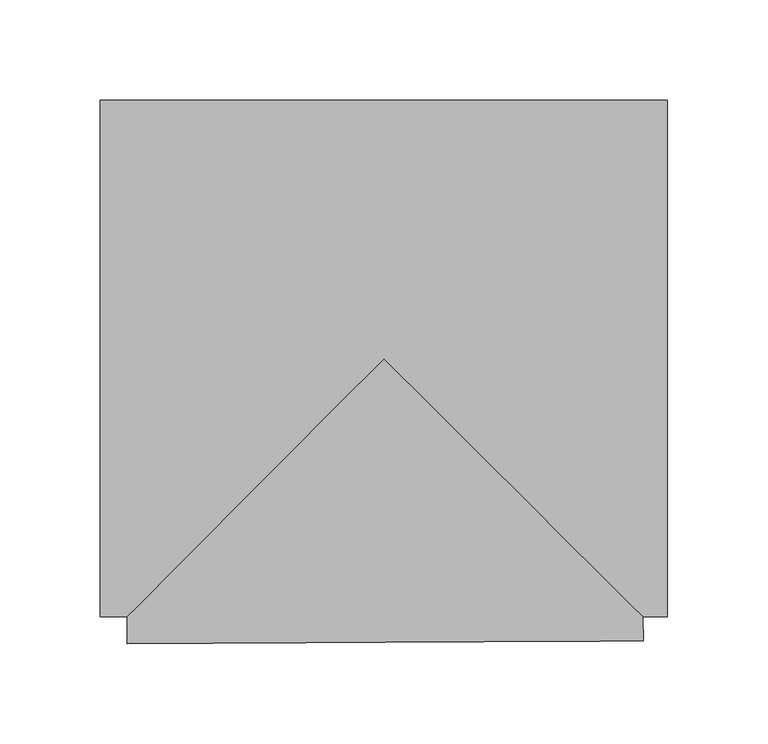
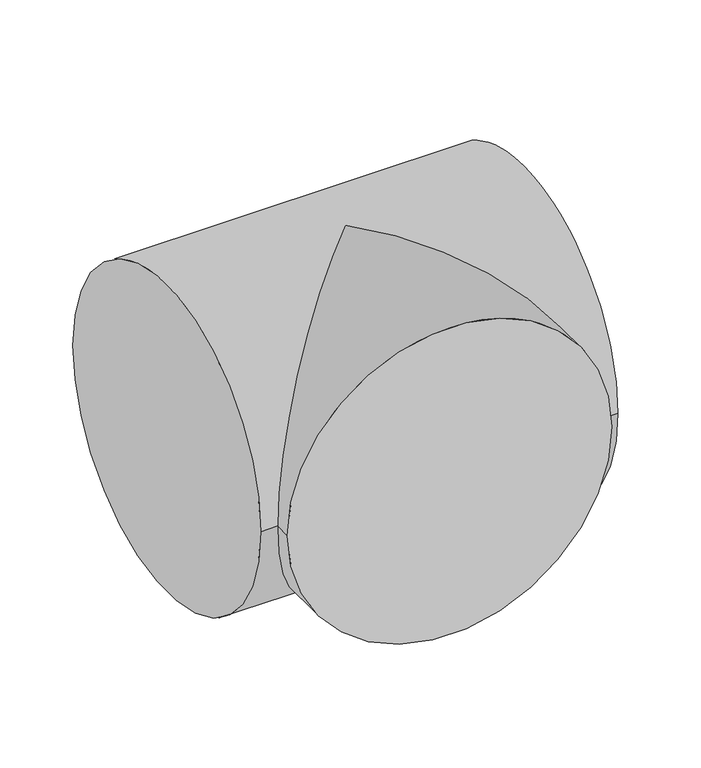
"""IFC4 building model written with IfcOpenShell, lengths in millimetres: pipe fitting geometry, M_Te - Genérica : Estándar."""

from ifc_helpers import new_model, si_unit, frame, origin, place, context, project, spatial, circle_curve, ellipse_curve, source, transform, mapped, element, save
from ifc_brep_helpers import plane_surface, cylinder_surface, advanced_brep


def pipe_fitting_402c58f1(model_context):
    return source(origin(), model_context, "Body", "AdvancedBrep", [
        advanced_brep(
        [(-141.2875, -128.5875, 0.0), (-141.2875, 128.5875, 0.0), (141.2875, -128.5875, 0.0), (141.2875, 128.5875, 0.0), (-127.9243514, -128.5875, 0.0), (0.0, 0.0, 128.5875), (129.2540863, -128.5875, 0.0), (0.0, 0.0, -128.5875), (-127.8552575, -141.95047, 0.0), (129.3163048, -140.6207528, 0.0)],
        [
            (0, 1, circle_curve(frame((-141.2875, 0.0, 0.0), z_axis=(-1.0, 0.0, 0.0), x_axis=(0.0, 1.0, 0.0)), 128.5875)),
            (1, 0, circle_curve(frame((-141.2875, 0.0, 0.0), z_axis=(-1.0, 0.0, 0.0), x_axis=(0.0, 1.0, 0.0)), 128.5875)),
            (2, 3, circle_curve(frame((141.2875, 0.0, 0.0), z_axis=(1.0, 0.0, 0.0), x_axis=(0.0, 1.0, 0.0)), 128.5875)),
            (3, 2, circle_curve(frame((141.2875, 0.0, 0.0), z_axis=(1.0, 0.0, 0.0), x_axis=(0.0, 1.0, 0.0)), 128.5875)),
            (0, 4),
            (4, 5, ellipse_curve(frame((0.0, 0.0, 0.0), z_axis=(-0.7089324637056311, 0.7052763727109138, 0.0), x_axis=(-0.705276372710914, -0.708932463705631, 0.0)), 181.3818757, 128.5875)),
            (5, 6, ellipse_curve(frame((0.0, 0.0, 0.0), z_axis=(0.7052763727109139, 0.7089324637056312, 0.0), x_axis=(-0.7089324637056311, 0.7052763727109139, 0.0)), 182.3221435, 128.5875)),
            (6, 2),
            (3, 1),
            (6, 7, ellipse_curve(frame((0.0, 0.0, 0.0), z_axis=(0.7052763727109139, 0.7089324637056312, 0.0), x_axis=(-0.7089324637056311, 0.7052763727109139, 0.0)), 182.3221435, 128.5875)),
            (7, 4, ellipse_curve(frame((0.0, 0.0, 0.0), z_axis=(-0.7089324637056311, 0.7052763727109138, 0.0), x_axis=(-0.705276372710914, -0.708932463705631, 0.0)), 181.3818757, 128.5875)),
            (8, 9, circle_curve(frame((0.7305237, -141.2856114, 0.0), z_axis=(0.005170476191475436, -0.9999866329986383, 0.0), x_axis=(0.9999866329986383, 0.005170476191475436, 0.0)), 128.5875)),
            (9, 8, circle_curve(frame((0.7305237, -141.2856114, 0.0), z_axis=(0.005170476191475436, -0.9999866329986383, 0.0), x_axis=(0.9999866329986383, 0.005170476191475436, 0.0)), 128.5875)),
            (9, 6),
            (4, 8),
        ],
        [
            plane_surface(frame((-141.2875, 0.0, 0.0), z_axis=(-1.0, 0.0, 0.0), x_axis=(0.0, 0.0, 1.0))),
            plane_surface(frame((141.2875, 0.0, 0.0), z_axis=(1.0, 0.0, 0.0), x_axis=(0.0, 0.0, 1.0))),
            cylinder_surface(frame((-141.2875, 0.0, 0.0), z_axis=(-1.0, 0.0, 0.0), x_axis=(0.0, 1.0, 0.0)), 128.5875),
            plane_surface(frame((0.7305237, -141.2856114, 0.0), z_axis=(0.005170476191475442, -0.9999866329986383, 0.0), x_axis=(0.0, 0.0, 1.0))),
            cylinder_surface(frame((0.0, 0.0, 0.0), z_axis=(-0.005170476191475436, 0.9999866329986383, 0.0), x_axis=(0.9999866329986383, 0.005170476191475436, 0.0)), 128.5875),
        ],
        [
            (0, [[1, 2]]),
            (1, [[3, 4]]),
            (2, [[-1, 5, 6, 7, 8, -4, 9]]),
            (2, [[-2, -9, -3, -8, 10, 11, -5]]),
            (3, [[12, 13]]),
            (4, [[-13, 14, -7, -6, 15]]),
            (4, [[-12, -15, -11, -10, -14]]),
        ],
    ),
    ])


if __name__ == "__main__":
    model = new_model("IFC4")
    model_context = context("Model", 3, world=origin())
    ifc_project = project(units=[si_unit("LENGTHUNIT", "METRE", prefix="MILLI")], contexts=[model_context])
    site = spatial("IfcSite", under=ifc_project)
    building = spatial("IfcBuilding", under=site)
    placement = place(None, origin())
    pipe_fitting_shape = pipe_fitting_402c58f1(model_context)
    element("IfcPipeFitting", 1, ObjectType="M_Te - Genérica : Estándar", at=placement, inside=building, context=model_context, shape_type="MappedRepresentation", body=[
        mapped(pipe_fitting_shape, transform((0.0, 0.0, 0.0), x_axis=(1.0, 0.0, 0.0), y_axis=(0.0, 1.0, 0.0), z_axis=(0.0, 0.0, 1.0))),
    ])
    save(model, "model.ifc")
